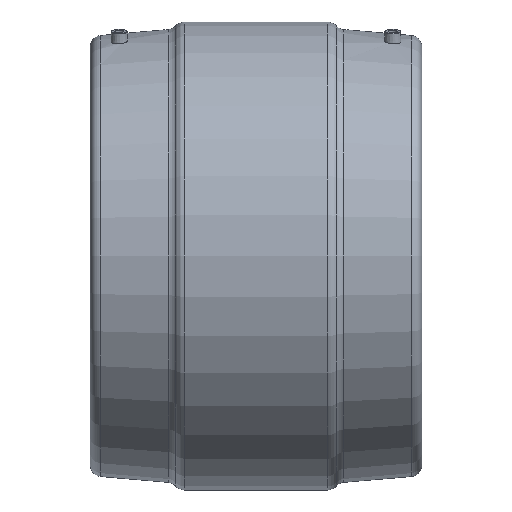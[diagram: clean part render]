
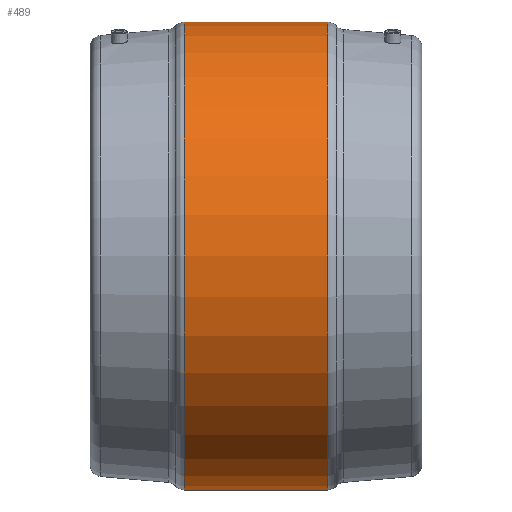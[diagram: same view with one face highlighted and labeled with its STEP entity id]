
A CAD part, front view. The second image highlights one B-rep face of the part: STEP entity #489.
In plain terms, the highlighted cylindrical face has radius 321 mm (diameter 642 mm), a full revolution.
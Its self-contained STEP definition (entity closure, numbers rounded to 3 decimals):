
#49=CYLINDRICAL_SURFACE('',#574,321.);
#115=ORIENTED_EDGE('',*,*,#176,.F.);
#116=ORIENTED_EDGE('',*,*,#175,.T.);
#175=EDGE_CURVE('',#219,#219,#257,.T.);
#176=EDGE_CURVE('',#220,#220,#258,.T.);
#219=VERTEX_POINT('',#954);
#220=VERTEX_POINT('',#957);
#257=CIRCLE('',#573,321.);
#258=CIRCLE('',#575,321.);
#329=EDGE_LOOP('',(#115));
#330=EDGE_LOOP('',(#116));
#417=FACE_BOUND('',#329,.T.);
#418=FACE_BOUND('',#330,.T.);
#489=ADVANCED_FACE('',(#417,#418),#49,.T.);
#573=AXIS2_PLACEMENT_3D('',#953,#713,#714);
#574=AXIS2_PLACEMENT_3D('',#955,#715,#716);
#575=AXIS2_PLACEMENT_3D('',#956,#717,#718);
#713=DIRECTION('',(-1.,0.,0.));
#714=DIRECTION('',(0.,0.,1.));
#715=DIRECTION('',(-1.,0.,0.));
#716=DIRECTION('',(0.,0.,1.));
#717=DIRECTION('',(-1.,0.,0.));
#718=DIRECTION('',(0.,0.,1.));
#953=CARTESIAN_POINT('',(98.5,0.,0.));
#954=CARTESIAN_POINT('',(98.5,0.,321.));
#955=CARTESIAN_POINT('',(-60.,0.,0.));
#956=CARTESIAN_POINT('',(-98.5,0.,0.));
#957=CARTESIAN_POINT('',(-98.5,0.,321.));
